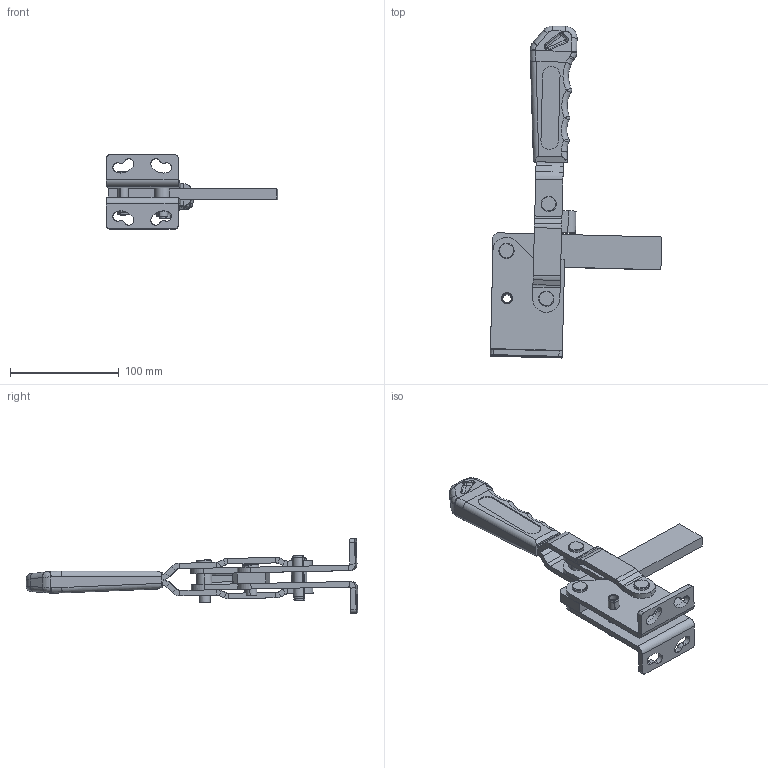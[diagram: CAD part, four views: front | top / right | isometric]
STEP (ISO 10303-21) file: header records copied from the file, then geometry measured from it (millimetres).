
FILE_DESCRIPTION (( 'STEP AP214' ), '1' );
FILE_NAME ('204_BL.STEP', '2024-09-09T16:31:20', ( '' ), ( '' ), 'SwSTEP 2.0', 'SolidWorks 2023', '' );
FILE_SCHEMA (( 'AUTOMOTIVE_DESIGN' ));
Length unit declared in the file: millimetre
Products named in the file (12): FZK_204_B_04_00; FZK_204_B_03_00; FZK_204_B_05A_00; FZK_204_B_02_00; 204_BL; FZK_204_B_06_00; FZK_204_BL_01_00; FZK_204_BL_02_00; TTMK_05_00; FZK_204_B_05_00; spring pin slotted_hd_din_Spring Pin ISO 8752 - 10 x 50 - St_1; FZK_204_B_07_00
Assembly tree (15 placements, depth 3):
  204_BL
    FZK_204_B_02_00  x2
    FZK_204_B_03_00
    FZK_204_B_04_00
    FZK_204_B_05_00
      FZK_204_B_05A_00  x2
    FZK_204_B_06_00  x2
    FZK_204_B_07_00  x2
    TTMK_05_00
    spring pin slotted_hd_din_Spring Pin ISO 8752 - 10 x 50 - St_1
    FZK_204_BL_01_00
    FZK_204_BL_02_00
Bounding box: 157.35 x 304.56 x 68.09 mm (x, y, z)
Volume: 256142.3 mm3; surface area: 118337.9 mm2
Topology: 14 solids, 14 shells, 484 faces, 1125 edges, 666 vertices
Faces by surface type: cylinder 220, plane 184, bspline 53, cone 27
Entity records: 13066 total; most frequent: CARTESIAN_POINT 3972, DIRECTION 1876, ORIENTED_EDGE 1798, EDGE_CURVE 899, AXIS2_PLACEMENT_3D 721, VERTEX_POINT 548, LINE 434, VECTOR 434
